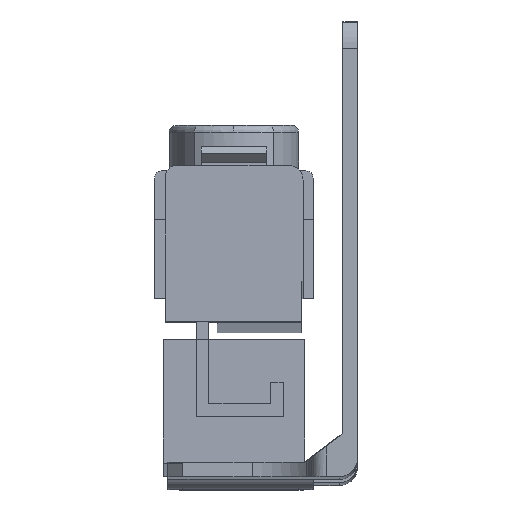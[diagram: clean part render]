
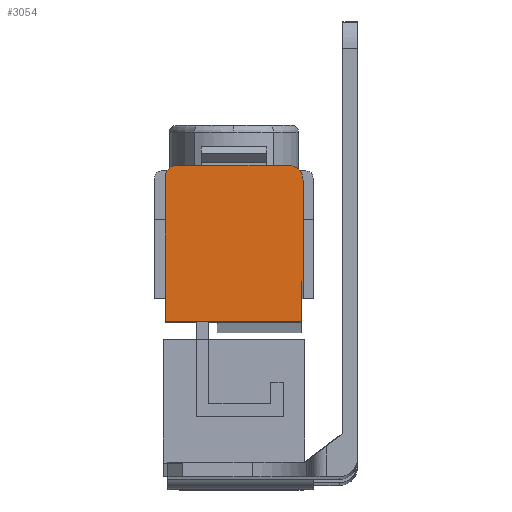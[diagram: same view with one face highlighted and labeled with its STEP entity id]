
A CAD part, front view. The second image highlights one B-rep face of the part: STEP entity #3054.
In plain terms, the highlighted planar face has unit normal (0, -1, 0.004).
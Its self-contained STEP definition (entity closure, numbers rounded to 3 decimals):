
#590 = AXIS2_PLACEMENT_3D ( 'NONE', #2330, #2907, #2922 ) ;
#591 = AXIS2_PLACEMENT_3D ( 'NONE', #2402, #2912, #2418 ) ;
#1271 = ORIENTED_EDGE ( 'NONE', *, *, #4374, .T. ) ;
#1272 = ORIENTED_EDGE ( 'NONE', *, *, #4378, .T. ) ;
#1273 = ORIENTED_EDGE ( 'NONE', *, *, #4377, .T. ) ;
#1274 = ORIENTED_EDGE ( 'NONE', *, *, #4373, .T. ) ;
#1275 = ORIENTED_EDGE ( 'NONE', *, *, #4368, .T. ) ;
#1276 = ORIENTED_EDGE ( 'NONE', *, *, #4359, .T. ) ;
#1277 = ORIENTED_EDGE ( 'NONE', *, *, #4366, .T. ) ;
#1278 = ORIENTED_EDGE ( 'NONE', *, *, #4364, .T. ) ;
#1682 = EDGE_LOOP ( 'NONE', ( #1278, #1277, #1276, #1275, #1274, #1273, #1272, #1271 ) ) ;
#2330 = CARTESIAN_POINT ( 'NONE',  ( -9.55, -24.716, -6.816 ) ) ;
#2391 = DIRECTION ( 'NONE',  ( 0., 0.004, 1. ) ) ;
#2392 = CARTESIAN_POINT ( 'NONE',  ( -24.75, -24.708, -4.766 ) ) ;
#2393 = DIRECTION ( 'NONE',  ( -1., 0., 0. ) ) ;
#2396 = CARTESIAN_POINT ( 'NONE',  ( -26.5, -24.714, -6.516 ) ) ;
#2397 = DIRECTION ( 'NONE',  ( 0., -0.004, -1. ) ) ;
#2402 = CARTESIAN_POINT ( 'NONE',  ( -24.75, -24.714, -6.516 ) ) ;
#2409 = CARTESIAN_POINT ( 'NONE',  ( -26.5, -24.769, -20.766 ) ) ;
#2414 = CARTESIAN_POINT ( 'NONE',  ( -7.75, -24.79, -26.266 ) ) ;
#2415 = CARTESIAN_POINT ( 'NONE',  ( -7.75, -24.79, -26.266 ) ) ;
#2417 = DIRECTION ( 'NONE',  ( 1., 0., 0. ) ) ;
#2418 = DIRECTION ( 'NONE',  ( 0., -0.004, -1. ) ) ;
#2420 = DIRECTION ( 'NONE',  ( 1., 0., 0. ) ) ;
#2732 = CARTESIAN_POINT ( 'NONE',  ( -7.5, -24.716, -6.816 ) ) ;
#2797 = CARTESIAN_POINT ( 'NONE',  ( -9.55, -24.708, -4.766 ) ) ;
#2907 = DIRECTION ( 'NONE',  ( 0., -1., 0.004 ) ) ;
#2912 = DIRECTION ( 'NONE',  ( 0., -1., 0.004 ) ) ;
#2920 = DIRECTION ( 'NONE',  ( 0., 0.004, 1. ) ) ;
#2921 = CARTESIAN_POINT ( 'NONE',  ( -26.5, -24.79, -26.266 ) ) ;
#2922 = DIRECTION ( 'NONE',  ( 0., 0.004, 1. ) ) ;
#3054 = ADVANCED_FACE ( 'NONE', ( #3948 ), #5298, .T. ) ;
#3766 = VECTOR ( 'NONE', #2393, 1000. ) ;
#3767 = LINE ( 'NONE', #2392, #3766 ) ;
#3773 = CIRCLE ( 'NONE', #590, 2.05 ) ;
#3777 = VECTOR ( 'NONE', #2920, 1000. ) ;
#3778 = LINE ( 'NONE', #2732, #3777 ) ;
#3781 = VECTOR ( 'NONE', #2417, 1000. ) ;
#3782 = LINE ( 'NONE', #2409, #3781 ) ;
#3783 = VECTOR ( 'NONE', #2397, 1000. ) ;
#3784 = LINE ( 'NONE', #2396, #3783 ) ;
#3792 = CIRCLE ( 'NONE', #591, 1.75 ) ;
#3797 = VECTOR ( 'NONE', #2391, 1000. ) ;
#3798 = LINE ( 'NONE', #2414, #3797 ) ;
#3799 = VECTOR ( 'NONE', #2420, 1000. ) ;
#3800 = LINE ( 'NONE', #2415, #3799 ) ;
#3948 = FACE_OUTER_BOUND ( 'NONE', #1682, .T. ) ;
#4359 = EDGE_CURVE ( 'NONE', #4493, #4683, #3767, .T. ) ;
#4364 = EDGE_CURVE ( 'NONE', #4644, #4647, #3778, .T. ) ;
#4366 = EDGE_CURVE ( 'NONE', #4647, #4493, #3773, .T. ) ;
#4368 = EDGE_CURVE ( 'NONE', #4683, #4565, #3792, .T. ) ;
#4373 = EDGE_CURVE ( 'NONE', #4565, #4506, #3784, .T. ) ;
#4374 = EDGE_CURVE ( 'NONE', #4533, #4644, #3782, .T. ) ;
#4377 = EDGE_CURVE ( 'NONE', #4506, #4529, #3800, .T. ) ;
#4378 = EDGE_CURVE ( 'NONE', #4529, #4533, #3798, .T. ) ;
#4493 = VERTEX_POINT ( 'NONE', #2797 ) ;
#4506 = VERTEX_POINT ( 'NONE', #2921 ) ;
#4529 = VERTEX_POINT ( 'NONE', #5099 ) ;
#4533 = VERTEX_POINT ( 'NONE', #5073 ) ;
#4565 = VERTEX_POINT ( 'NONE', #5060 ) ;
#4644 = VERTEX_POINT ( 'NONE', #5214 ) ;
#4647 = VERTEX_POINT ( 'NONE', #5217 ) ;
#4683 = VERTEX_POINT ( 'NONE', #5186 ) ;
#4998 = AXIS2_PLACEMENT_3D ( 'NONE', #5480, #5406, #5438 ) ;
#5060 = CARTESIAN_POINT ( 'NONE',  ( -26.5, -24.714, -6.516 ) ) ;
#5073 = CARTESIAN_POINT ( 'NONE',  ( -7.75, -24.769, -20.766 ) ) ;
#5099 = CARTESIAN_POINT ( 'NONE',  ( -7.75, -24.79, -26.266 ) ) ;
#5186 = CARTESIAN_POINT ( 'NONE',  ( -24.75, -24.708, -4.766 ) ) ;
#5214 = CARTESIAN_POINT ( 'NONE',  ( -7.5, -24.769, -20.766 ) ) ;
#5217 = CARTESIAN_POINT ( 'NONE',  ( -7.5, -24.716, -6.816 ) ) ;
#5298 = PLANE ( 'NONE',  #4998 ) ;
#5406 = DIRECTION ( 'NONE',  ( 0., -1., 0.004 ) ) ;
#5438 = DIRECTION ( 'NONE',  ( 0., -0.004, -1. ) ) ;
#5480 = CARTESIAN_POINT ( 'NONE',  ( -24.75, -24.714, -6.516 ) ) ;
